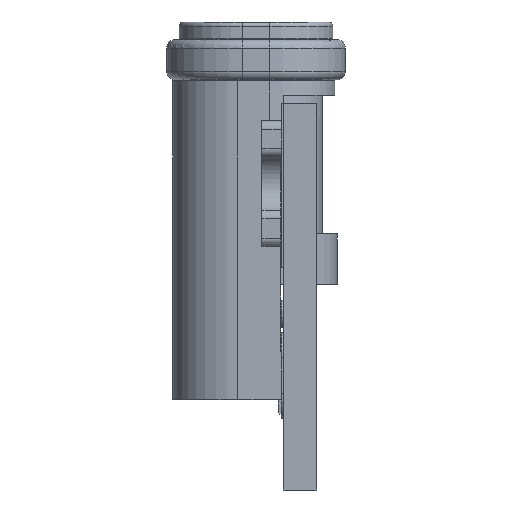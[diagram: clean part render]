
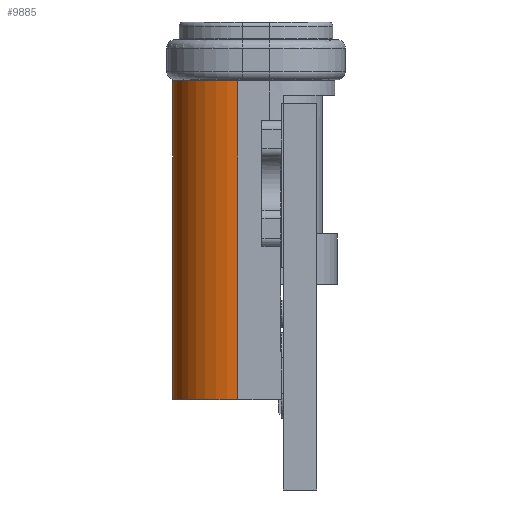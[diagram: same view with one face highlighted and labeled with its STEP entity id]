
A CAD part, left-side view. The second image highlights one B-rep face of the part: STEP entity #9885.
In plain terms, the highlighted cylindrical face has radius 1.55 mm (diameter 3.1 mm), a partial arc.
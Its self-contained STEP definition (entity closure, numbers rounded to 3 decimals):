
#7633=CYLINDRICAL_SURFACE('',#37216,1.55);
#8304=FACE_OUTER_BOUND('',#13025,.T.);
#9885=ADVANCED_FACE('',(#8304),#7633,.T.);
#13025=EDGE_LOOP('',(#24148,#24149,#24150,#24151));
#15636=LINE('',#50406,#18978);
#15637=LINE('',#50411,#18979);
#18978=VECTOR('',#41924,1.);
#18979=VECTOR('',#41927,1.);
#24148=ORIENTED_EDGE('',*,*,#33613,.F.);
#24149=ORIENTED_EDGE('',*,*,#33614,.T.);
#24150=ORIENTED_EDGE('',*,*,#33615,.F.);
#24151=ORIENTED_EDGE('',*,*,#33616,.T.);
#30373=VERTEX_POINT('',#50407);
#30374=VERTEX_POINT('',#50408);
#30375=VERTEX_POINT('',#50410);
#30376=VERTEX_POINT('',#50412);
#33613=EDGE_CURVE('',#30373,#30374,#15636,.T.);
#33614=EDGE_CURVE('',#30373,#30375,#36057,.T.);
#33615=EDGE_CURVE('',#30376,#30375,#15637,.T.);
#33616=EDGE_CURVE('',#30376,#30374,#36058,.T.);
#36057=CIRCLE('',#37214,1.55);
#36058=CIRCLE('',#37215,1.55);
#37214=AXIS2_PLACEMENT_3D('',#50409,#41925,#41926);
#37215=AXIS2_PLACEMENT_3D('',#50413,#41928,#41929);
#37216=AXIS2_PLACEMENT_3D('',#50414,#41930,#41931);
#41924=DIRECTION('',(0.,0.,-1.));
#41925=DIRECTION('',(0.,0.,-1.));
#41926=DIRECTION('',(1.,0.,0.));
#41927=DIRECTION('',(0.,0.,1.));
#41928=DIRECTION('',(0.,0.,1.));
#41929=DIRECTION('',(-1.,0.,0.));
#41930=DIRECTION('',(0.,0.,-1.));
#41931=DIRECTION('',(-1.,0.,0.));
#50406=CARTESIAN_POINT('',(-39.378,4.467,-37.28));
#50407=CARTESIAN_POINT('',(-39.378,4.467,3.695));
#50408=CARTESIAN_POINT('',(-39.378,4.467,-3.905));
#50409=CARTESIAN_POINT('',(-37.828,4.467,3.695));
#50410=CARTESIAN_POINT('',(-37.828,6.017,3.695));
#50411=CARTESIAN_POINT('',(-37.828,6.017,-8.275));
#50412=CARTESIAN_POINT('',(-37.828,6.017,-3.905));
#50413=CARTESIAN_POINT('',(-37.828,4.467,-3.905));
#50414=CARTESIAN_POINT('',(-37.828,4.467,-8.275));
